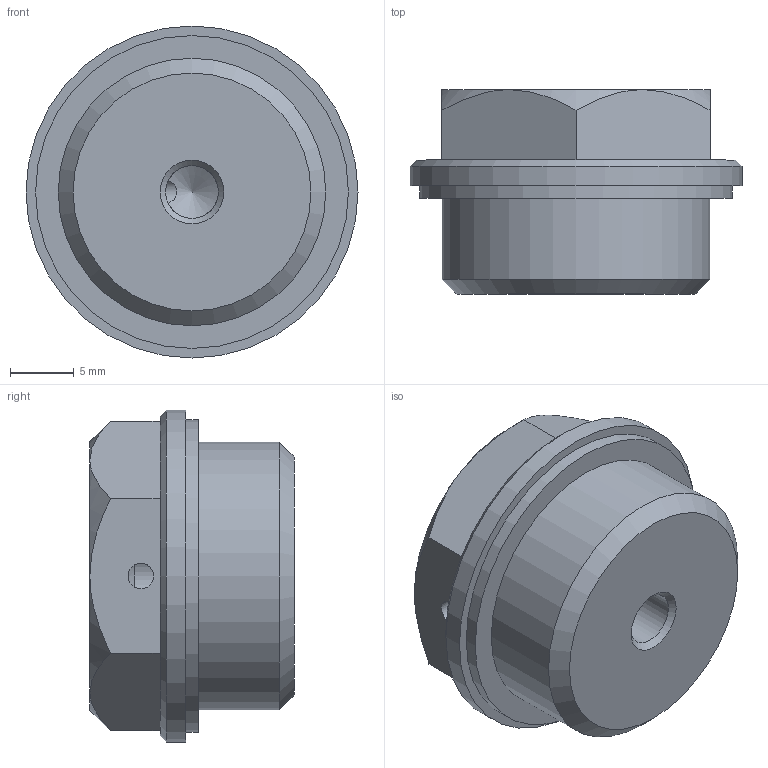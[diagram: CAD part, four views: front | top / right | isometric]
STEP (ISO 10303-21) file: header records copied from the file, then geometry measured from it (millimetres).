
FILE_DESCRIPTION( ( 'STEP AP203' ), '1' );
FILE_NAME( 'C:/Temp/Ganter_Step_05_03_2020/data/3_5/gn742/gn742_2/Threaded plug GN 742-26-G1_2-ASS-2.stp', '2020-03-12T13:39:26', ( 'License CC BY-ND 4.0' ), ( 'CADENAS' ), ' ', 'PARTsolutions', ' ' );
FILE_SCHEMA( ( 'CONFIG_CONTROL_DESIGN' ) );
Length unit declared in the file: millimetre
Products named in the file (1): _Threaded plug GN 742-26-G1/2-ASS-2
Bounding box: 26 x 16 x 26 mm (x, y, z)
Volume: 5947.6 mm3; surface area: 2310.7 mm2
Topology: 1 solids, 1 shells, 53 faces, 131 edges, 84 vertices
Faces by surface type: plane 38, cone 10, cylinder 5
Full cylindrical faces by diameter (mm): 2 x1, 4.134 x1, 20.955 x1, 24.5 x1, 26 x1
Entity records: 1621 total; most frequent: CARTESIAN_POINT 381, ORIENTED_EDGE 238, DIRECTION 231, EDGE_CURVE 119, LINE 87, VECTOR 87, VERTEX_POINT 82, AXIS2_PLACEMENT_3D 72
